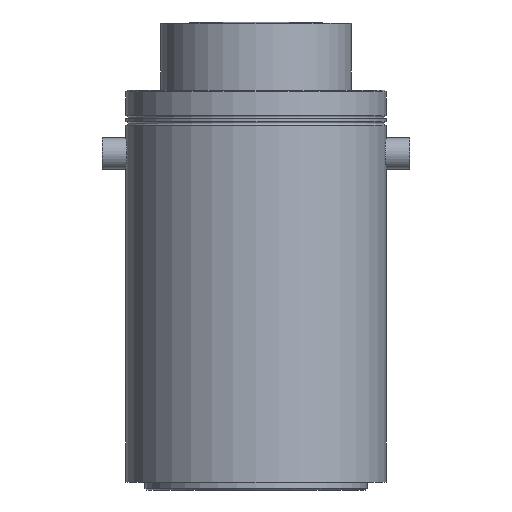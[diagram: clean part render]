
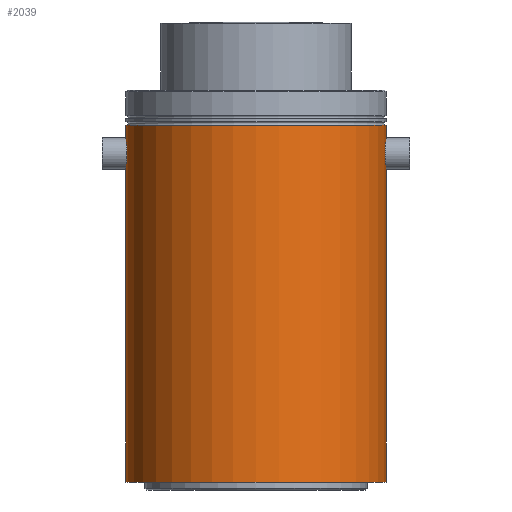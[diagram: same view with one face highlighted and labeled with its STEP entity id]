
A CAD part, left-side view. The second image highlights one B-rep face of the part: STEP entity #2039.
In plain terms, the highlighted cylindrical face has radius 82 mm (diameter 164 mm), a full revolution.
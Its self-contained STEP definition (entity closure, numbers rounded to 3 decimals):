
#24=B_SPLINE_CURVE_WITH_KNOTS('',3,(#2943,#2944,#2945,#2946,#2947,#2948,
#2949,#2950,#2951,#2952,#2953,#2954,#2955,#2956,#2957,#2958,#2959,#2960,
#2961),.UNSPECIFIED.,.T.,.F.,(1,1,1,1,1,1,1,1,1,1,1,1,1,1,1,1,1,1,1,1,1,
1,1),(-0.012,-0.008,-0.004,0.,
0.004,0.008,0.012,0.016,
0.02,0.023,0.027,0.031,
0.035,0.039,0.043,0.047,
0.051,0.055,0.059,0.063,
0.066,0.07,0.074),.UNSPECIFIED.);
#25=B_SPLINE_CURVE_WITH_KNOTS('',3,(#2963,#2964,#2965,#2966,#2967,#2968,
#2969,#2970,#2971,#2972,#2973,#2974,#2975,#2976,#2977,#2978,#2979,#2980,
#2981),.UNSPECIFIED.,.T.,.F.,(1,1,1,1,1,1,1,1,1,1,1,1,1,1,1,1,1,1,1,1,1,
1,1),(-0.012,-0.008,-0.004,0.,
0.004,0.008,0.012,0.016,
0.02,0.023,0.027,0.031,
0.035,0.039,0.043,0.047,
0.051,0.055,0.059,0.063,
0.066,0.07,0.074),.UNSPECIFIED.);
#46=CYLINDRICAL_SURFACE('',#2167,82.);
#84=CIRCLE('',#2168,82.);
#85=CIRCLE('',#2169,82.);
#86=CIRCLE('',#2170,82.);
#87=CIRCLE('',#2171,82.);
#379=ORIENTED_EDGE('',*,*,#583,.F.);
#380=ORIENTED_EDGE('',*,*,#584,.F.);
#381=ORIENTED_EDGE('',*,*,#585,.F.);
#382=ORIENTED_EDGE('',*,*,#578,.T.);
#383=ORIENTED_EDGE('',*,*,#442,.T.);
#384=ORIENTED_EDGE('',*,*,#580,.T.);
#385=ORIENTED_EDGE('',*,*,#586,.F.);
#386=ORIENTED_EDGE('',*,*,#581,.F.);
#387=ORIENTED_EDGE('',*,*,#467,.F.);
#388=ORIENTED_EDGE('',*,*,#577,.F.);
#389=ORIENTED_EDGE('',*,*,#587,.T.);
#390=ORIENTED_EDGE('',*,*,#588,.T.);
#442=EDGE_CURVE('',#609,#610,#735,.T.);
#467=EDGE_CURVE('',#619,#616,#756,.T.);
#577=EDGE_CURVE('',#706,#619,#841,.T.);
#578=EDGE_CURVE('',#707,#609,#842,.T.);
#580=EDGE_CURVE('',#610,#708,#844,.T.);
#581=EDGE_CURVE('',#616,#709,#845,.T.);
#583=EDGE_CURVE('',#710,#710,#84,.F.);
#584=EDGE_CURVE('',#711,#711,#85,.T.);
#585=EDGE_CURVE('',#707,#706,#86,.F.);
#586=EDGE_CURVE('',#709,#708,#87,.F.);
#587=EDGE_CURVE('',#712,#712,#24,.T.);
#588=EDGE_CURVE('',#713,#713,#25,.T.);
#609=VERTEX_POINT('',#2630);
#610=VERTEX_POINT('',#2631);
#616=VERTEX_POINT('',#2645);
#619=VERTEX_POINT('',#2655);
#706=VERTEX_POINT('',#2926);
#707=VERTEX_POINT('',#2928);
#708=VERTEX_POINT('',#2932);
#709=VERTEX_POINT('',#2934);
#710=VERTEX_POINT('',#2938);
#711=VERTEX_POINT('',#2940);
#712=VERTEX_POINT('',#2962);
#713=VERTEX_POINT('',#2982);
#735=LINE('',#2629,#847);
#756=LINE('',#2680,#868);
#841=LINE('',#2925,#953);
#842=LINE('',#2927,#954);
#844=LINE('',#2931,#956);
#845=LINE('',#2933,#957);
#847=VECTOR('',#2223,1000.);
#868=VECTOR('',#2264,1000.);
#953=VECTOR('',#2515,1000.);
#954=VECTOR('',#2516,1000.);
#956=VECTOR('',#2520,1000.);
#957=VECTOR('',#2521,1000.);
#1049=EDGE_LOOP('',(#379));
#1050=EDGE_LOOP('',(#380));
#1051=EDGE_LOOP('',(#381,#382,#383,#384,#385,#386,#387,#388));
#1052=EDGE_LOOP('',(#389));
#1053=EDGE_LOOP('',(#390));
#1193=FACE_BOUND('',#1049,.T.);
#1194=FACE_BOUND('',#1050,.T.);
#1195=FACE_BOUND('',#1051,.T.);
#1196=FACE_BOUND('',#1052,.T.);
#1197=FACE_BOUND('',#1053,.T.);
#2039=ADVANCED_FACE('',(#1193,#1194,#1195,#1196,#1197),#46,.T.);
#2167=AXIS2_PLACEMENT_3D('',#2936,#2523,#2524);
#2168=AXIS2_PLACEMENT_3D('',#2937,#2525,#2526);
#2169=AXIS2_PLACEMENT_3D('',#2939,#2527,#2528);
#2170=AXIS2_PLACEMENT_3D('',#2941,#2529,#2530);
#2171=AXIS2_PLACEMENT_3D('',#2942,#2531,#2532);
#2223=DIRECTION('',(0.,0.,1.));
#2264=DIRECTION('',(0.,0.,1.));
#2515=DIRECTION('',(0.,0.,1.));
#2516=DIRECTION('',(0.,0.,1.));
#2520=DIRECTION('',(0.,0.,1.));
#2521=DIRECTION('',(0.,0.,1.));
#2523=DIRECTION('',(0.,0.,1.));
#2524=DIRECTION('',(1.,0.,0.));
#2525=DIRECTION('',(0.,0.,-1.));
#2526=DIRECTION('',(-1.,0.,0.));
#2527=DIRECTION('',(0.,0.,-1.));
#2528=DIRECTION('',(-1.,0.,0.));
#2529=DIRECTION('',(0.,0.,-1.));
#2530=DIRECTION('',(-1.,0.,0.));
#2531=DIRECTION('',(0.,0.,1.));
#2532=DIRECTION('',(1.,0.,0.));
#2629=CARTESIAN_POINT('',(80.5,-15.612,23.));
#2630=CARTESIAN_POINT('',(80.5,-15.612,-46.));
#2631=CARTESIAN_POINT('',(80.5,-15.612,-14.));
#2645=CARTESIAN_POINT('',(80.5,15.612,-14.));
#2655=CARTESIAN_POINT('',(80.5,15.612,-46.));
#2680=CARTESIAN_POINT('',(80.5,15.612,23.));
#2925=CARTESIAN_POINT('',(80.5,15.612,23.));
#2926=CARTESIAN_POINT('',(80.5,15.612,-46.1));
#2927=CARTESIAN_POINT('',(80.5,-15.612,23.));
#2928=CARTESIAN_POINT('',(80.5,-15.612,-46.1));
#2931=CARTESIAN_POINT('',(80.5,-15.612,23.));
#2932=CARTESIAN_POINT('',(80.5,-15.612,-13.9));
#2933=CARTESIAN_POINT('',(80.5,15.612,23.));
#2934=CARTESIAN_POINT('',(80.5,15.612,-13.9));
#2936=CARTESIAN_POINT('',(0.,0.,23.));
#2937=CARTESIAN_POINT('',(0.,0.,80.));
#2938=CARTESIAN_POINT('',(-82.,0.,80.));
#2939=CARTESIAN_POINT('',(0.,0.,-145.));
#2940=CARTESIAN_POINT('',(-82.,0.,-145.));
#2941=CARTESIAN_POINT('',(0.,0.,-46.1));
#2942=CARTESIAN_POINT('',(0.,0.,-13.9));
#2943=CARTESIAN_POINT('',(9.473,-81.455,65.945));
#2944=CARTESIAN_POINT('',(10.263,-81.354,61.997));
#2945=CARTESIAN_POINT('',(9.477,-81.455,58.068));
#2946=CARTESIAN_POINT('',(7.253,-81.695,54.744));
#2947=CARTESIAN_POINT('',(3.932,-81.934,52.523));
#2948=CARTESIAN_POINT('',(0.006,-82.033,51.739));
#2949=CARTESIAN_POINT('',(-3.923,-81.934,52.519));
#2950=CARTESIAN_POINT('',(-7.252,-81.695,54.742));
#2951=CARTESIAN_POINT('',(-9.477,-81.455,58.069));
#2952=CARTESIAN_POINT('',(-10.261,-81.355,61.996));
#2953=CARTESIAN_POINT('',(-9.48,-81.454,65.923));
#2954=CARTESIAN_POINT('',(-7.261,-81.694,69.247));
#2955=CARTESIAN_POINT('',(-3.941,-81.933,71.473));
#2956=CARTESIAN_POINT('',(-0.009,-82.033,72.261));
#2957=CARTESIAN_POINT('',(3.924,-81.934,71.481));
#2958=CARTESIAN_POINT('',(7.249,-81.695,69.258));
#2959=CARTESIAN_POINT('',(9.473,-81.455,65.945));
#2960=CARTESIAN_POINT('',(10.263,-81.354,61.997));
#2961=CARTESIAN_POINT('',(9.477,-81.455,58.068));
#2962=CARTESIAN_POINT('',(10.,-81.388,62.));
#2963=CARTESIAN_POINT('',(-9.473,81.455,65.945));
#2964=CARTESIAN_POINT('',(-10.263,81.354,61.997));
#2965=CARTESIAN_POINT('',(-9.477,81.455,58.068));
#2966=CARTESIAN_POINT('',(-7.253,81.695,54.744));
#2967=CARTESIAN_POINT('',(-3.932,81.934,52.523));
#2968=CARTESIAN_POINT('',(-0.006,82.033,51.739));
#2969=CARTESIAN_POINT('',(3.923,81.934,52.519));
#2970=CARTESIAN_POINT('',(7.252,81.695,54.742));
#2971=CARTESIAN_POINT('',(9.477,81.455,58.069));
#2972=CARTESIAN_POINT('',(10.261,81.355,61.996));
#2973=CARTESIAN_POINT('',(9.48,81.454,65.923));
#2974=CARTESIAN_POINT('',(7.261,81.694,69.247));
#2975=CARTESIAN_POINT('',(3.941,81.933,71.473));
#2976=CARTESIAN_POINT('',(0.009,82.033,72.261));
#2977=CARTESIAN_POINT('',(-3.924,81.934,71.481));
#2978=CARTESIAN_POINT('',(-7.249,81.695,69.258));
#2979=CARTESIAN_POINT('',(-9.473,81.455,65.945));
#2980=CARTESIAN_POINT('',(-10.263,81.354,61.997));
#2981=CARTESIAN_POINT('',(-9.477,81.455,58.068));
#2982=CARTESIAN_POINT('',(-10.,81.388,62.));
